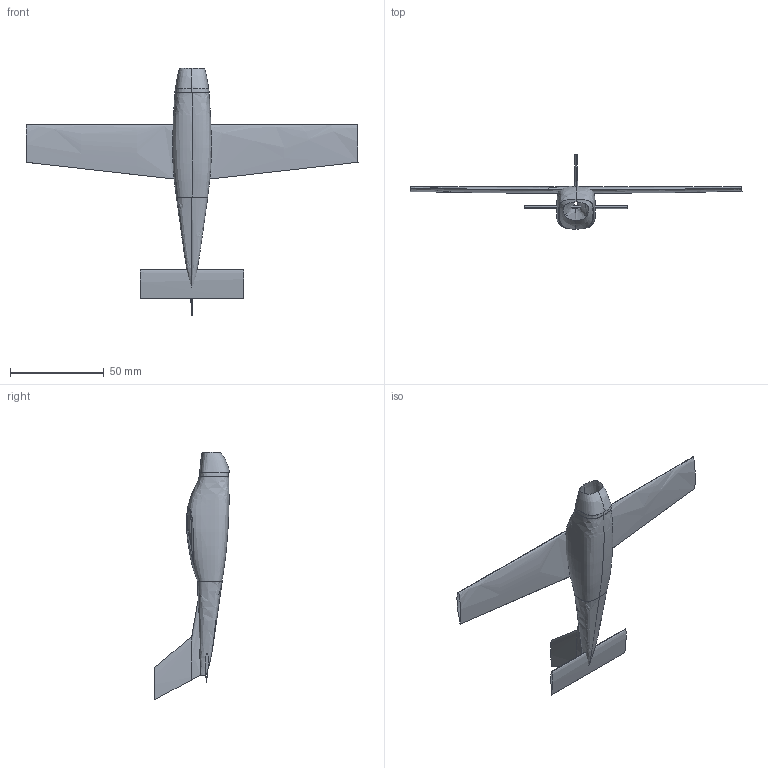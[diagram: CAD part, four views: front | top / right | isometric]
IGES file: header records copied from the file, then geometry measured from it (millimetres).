
Start section: SolidWorks IGES file using analytic representation for surfaces
Global section: file name: I:\cessna177\Cessna177_3v - ﾘ璢 2.IGS,; native system: SolidWorks 2012; preprocessor: SolidWorks 2012; author: Alex; date: 111128.200127; units: millimetre
Bounding box: 177.4 x 39.94 x 132.26 mm (x, y, z)
Surface area: 18339.4 mm2 (no closed solid volume)
Topology: 0 solids, 0 shells, 21 faces, 164 edges, 236 vertices
Faces by surface type: bspline 21
